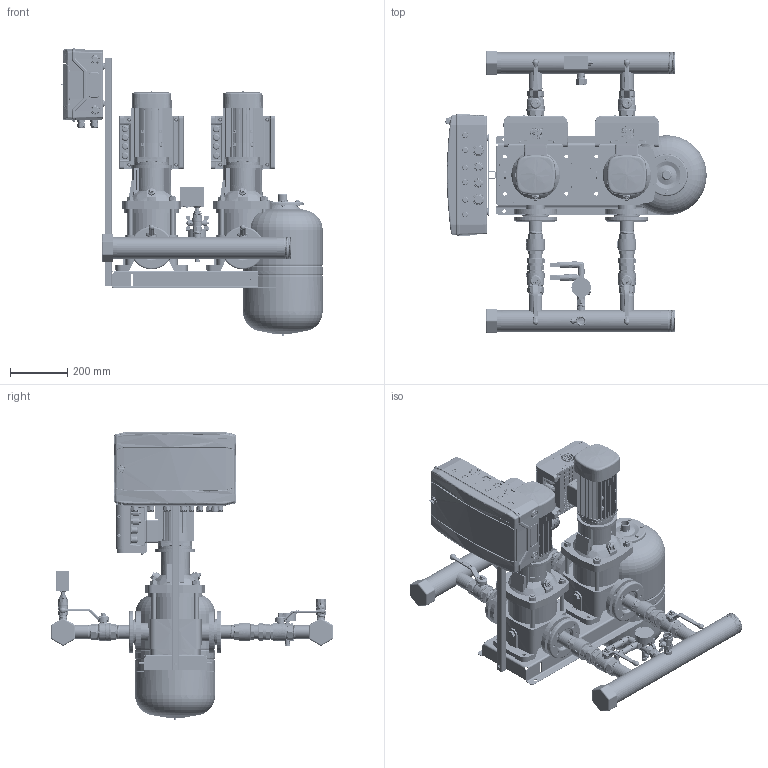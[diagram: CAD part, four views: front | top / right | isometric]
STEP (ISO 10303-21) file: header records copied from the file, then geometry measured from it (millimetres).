
FILE_DESCRIPTION(('CATIA V5 STEP Exchange','CAx-IF Rec.Pracs.--- Model Styling and Organization---1.4--- 2014-01-23','CAx-IF Rec.Pracs.---3D Tessellated Data Validation Properties---0.5---2014-09-14'),'2;1');
FILE_NAME('C:\Users\78432\YandexDisk\Drawings and 3D\3D Hydro Booster\Hydro-ME 3D\Hydro Models\Hydro ME 2 CRV10-xx\Hydro ME 2 CRVE10-3 (DIN).stp','2023-09-20T09:25:43+00:00',('none'),('none'),'CATIA Version 5-6 Release 2019 SP6','CATIA V5 STEP AP242 v1','none');
FILE_SCHEMA(('AP242_MANAGED_MODEL_BASED_3D_ENGINEERING_MIM_LF {1 0 10303 442 1 1 4}'));
Length unit declared in the file: millimetre
Products named in the file (49): Hydro ME 2 CRVE10-3 (DIN); 92051008; CRV10-3 Set (DIN); CRV 10-3_A_DIN_1.1kW; Base; Sleeve; Pumphead; Staybolt.1; Staybolt.2; Staybolt.3; Staybolt.4; Plug; AirVent; Motor; 00id2582; Adapter DN40-1,5" (96619634); 91040268; 91070086; 99110034; Hydraulica NY DN32 1,5 PN16; 92807557_9013-05; DN40_FM_LV_47.303.40; DN40_FF_LV_47.301; SAJ PDH30 0,75-2,2kW; 97941444; 405801; 405816; 91040267; 97941481; 00ID7527; Holder and CP 18mod; 92878909; Control ME (18mod); 2 sensors + manometer cpl.; manometr 16 bar; RPD-I-G1_2; 9021-01; 2070 1/2-1/2; _2020 1/2-1/2; 98594078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
Assembly tree (57 placements, depth 4):
  Hydro ME 2 CRVE10-3 (DIN)
    92051008
    CRV10-3 Set (DIN)  x2
      CRV 10-3_A_DIN_1.1kW
        Base
        Sleeve
        Pumphead
        Staybolt.1
        Staybolt.2
        Staybolt.3
        Staybolt.4
        Plug
        AirVent
        Motor
      00id2582
      Adapter DN40-1,5" (96619634)
        91040268
        91070086
        99110034
      Hydraulica NY DN32 1,5 PN16
      92807557_9013-05
      DN40_FM_LV_47.303.40
      DN40_FF_LV_47.301
      SAJ PDH30 0,75-2,2kW
    97941444  x2
      405801
      405816
      91040267
      97941481
    00ID7527  x2
    Holder and CP 18mod
      92878909
      Control ME (18mod)
    2 sensors + manometer cpl.
      manometr 16 bar
      RPD-I-G1_2  x2
      9021-01
      2070 1/2-1/2
      _2020 1/2-1/2
      98594078
    Tank 24L cpl.
      DN20_FF_BF_47.300.20
      9021-03
    Relay cpl.
      Relay RD-2R
      DN20_FF_BF_47.300.20
      2530 3/4-1/2
      _2530 1/2-1/4
    91078139
  WAV-24(D140 1'')
Bounding box: 916.82 x 989.22 x 1009.9 mm (x, y, z)
Volume: 57605160.9 mm3; surface area: 6464462.9 mm2
Topology: 176 solids, 192 shells, 23201 faces, 66726 edges, 44602 vertices
Faces by surface type: plane 9054, cylinder 6033, bspline 5798, cone 1543, torus 498, sphere 145, extrusion 130
Entity records: 629114 total; most frequent: CARTESIAN_POINT 311582, ORIENTED_EDGE 81934, EDGE_CURVE 41440, DIRECTION 37407, VERTEX_POINT 27621, VECTOR 16855, LINE 16790, B_SPLINE_CURVE_WITH_KNOTS 16550
